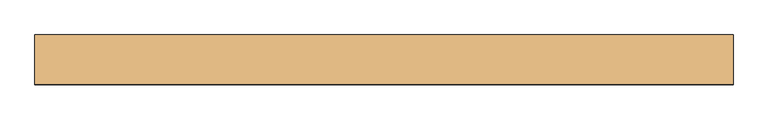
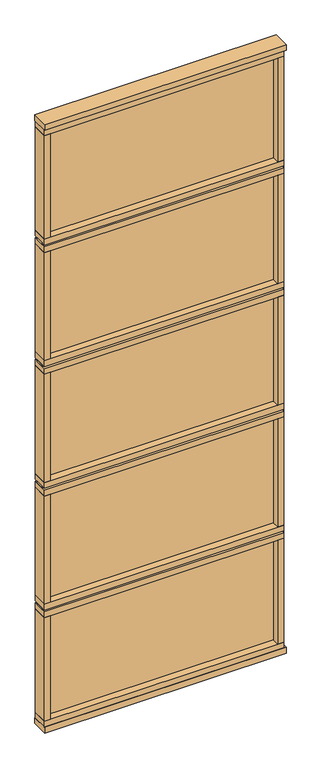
"""IFC4 building model written with IfcOpenShell, lengths in millimetres: door geometry, Mobiliário_Mobiliário de Escritório_Painel de Vidro Simples - AU5T (Complementar)_Marelli : AU5T - Temperado."""

from ifc_helpers import new_model, si_unit, frame, origin, origin_with_axes, place, context, project, spatial, polyline, outline, extrude, source, transform, mapped, element, save


def door_3cf1cd3f(model_context):
    return source(origin(), model_context, "Body", "SweptSolid", [
        extrude(outline(polyline([(600.0, 42.5), (600.0, -42.5), (-600.0, -42.5), (-600.0, 42.5), (600.0, 42.5)])), origin_with_axes(), (0.0, 0.0, 1.0), 30.0),
        extrude(outline(polyline([(590.0, 21.5), (590.0, -21.5), (-600.0, -21.5), (-600.0, 21.5), (590.0, 21.5)])), frame((0.0, 0.0, 2555.0), z_axis=(0.0, 0.0, 1.0), x_axis=(1.0, 0.0, 0.0)), (0.0, 0.0, 1.0), 10.0),
        extrude(outline(polyline([(590.0, 39.5), (590.0, -39.5), (-600.0, -39.5), (-600.0, 39.5), (590.0, 39.5)])), frame((0.0, 0.0, 2565.0), z_axis=(0.0, 0.0, 1.0), x_axis=(1.0, 0.0, 0.0)), (0.0, 0.0, 1.0), 30.0),
        extrude(outline(polyline([(-570.0, 39.5), (-570.0, -39.5), (-600.0, -39.5), (-600.0, 39.5), (-570.0, 39.5)])), frame((0.0, 0.0, 2595.0), z_axis=(0.0, 0.0, 1.0), x_axis=(1.0, 0.0, 0.0)), (0.0, 0.0, 1.0), 545.0),
        extrude(outline(polyline([(560.0, 39.5), (590.0, 39.5), (590.0, -39.5), (560.0, -39.5), (560.0, 39.5)])), frame((0.0, 0.0, 2595.0), z_axis=(0.0, 0.0, 1.0), x_axis=(1.0, 0.0, 0.0)), (0.0, 0.0, 1.0), 545.0),
        extrude(outline(polyline([(560.0, 3.0), (560.0, -3.0), (-570.0, -3.0), (-570.0, 3.0), (560.0, 3.0)])), frame((0.0, 0.0, 2595.0), z_axis=(0.0, 0.0, 1.0), x_axis=(1.0, 0.0, 0.0)), (0.0, 0.0, 1.0), 545.0),
        extrude(outline(polyline([(590.0, 39.5), (590.0, -39.5), (-600.0, -39.5), (-600.0, 39.5), (590.0, 39.5)])), frame((0.0, 0.0, 2525.0), z_axis=(0.0, 0.0, 1.0), x_axis=(1.0, 0.0, 0.0)), (0.0, 0.0, 1.0), 30.0),
        extrude(outline(polyline([(590.0, 39.5), (590.0, -39.5), (-600.0, -39.5), (-600.0, 39.5), (590.0, 39.5)])), frame((0.0, 0.0, 1925.0), z_axis=(0.0, 0.0, 1.0), x_axis=(1.0, 0.0, 0.0)), (0.0, 0.0, 1.0), 30.0),
        extrude(outline(polyline([(590.0, 21.5), (590.0, -21.5), (-600.0, -21.5), (-600.0, 21.5), (590.0, 21.5)])), frame((0.0, 0.0, 1915.0), z_axis=(0.0, 0.0, 1.0), x_axis=(1.0, 0.0, 0.0)), (0.0, 0.0, 1.0), 10.0),
        extrude(outline(polyline([(590.0, 21.5), (590.0, -21.5), (-600.0, -21.5), (-600.0, 21.5), (590.0, 21.5)])), frame((0.0, 0.0, 1275.0), z_axis=(0.0, 0.0, 1.0), x_axis=(1.0, 0.0, 0.0)), (0.0, 0.0, 1.0), 10.0),
        extrude(outline(polyline([(590.0, 21.5), (590.0, -21.5), (-600.0, -21.5), (-600.0, 21.5), (590.0, 21.5)])), frame((0.0, 0.0, 635.0), z_axis=(0.0, 0.0, 1.0), x_axis=(1.0, 0.0, 0.0)), (0.0, 0.0, 1.0), 10.0),
        extrude(outline(polyline([(590.0, 39.5), (590.0, -39.5), (-600.0, -39.5), (-600.0, 39.5), (590.0, 39.5)])), frame((0.0, 0.0, 1285.0), z_axis=(0.0, 0.0, 1.0), x_axis=(1.0, 0.0, 0.0)), (0.0, 0.0, 1.0), 30.0),
        extrude(outline(polyline([(-570.0, 39.5), (-570.0, -39.5), (-600.0, -39.5), (-600.0, 39.5), (-570.0, 39.5)])), frame((0.0, 0.0, 1315.0), z_axis=(0.0, 0.0, 1.0), x_axis=(1.0, 0.0, 0.0)), (0.0, 0.0, 1.0), 570.0),
        extrude(outline(polyline([(560.0, 39.5), (590.0, 39.5), (590.0, -39.5), (560.0, -39.5), (560.0, 39.5)])), frame((0.0, 0.0, 1315.0), z_axis=(0.0, 0.0, 1.0), x_axis=(1.0, 0.0, 0.0)), (0.0, 0.0, 1.0), 570.0),
        extrude(outline(polyline([(590.0, 39.5), (590.0, -39.5), (-600.0, -39.5), (-600.0, 39.5), (590.0, 39.5)])), frame((0.0, 0.0, 1885.0), z_axis=(0.0, 0.0, 1.0), x_axis=(1.0, 0.0, 0.0)), (0.0, 0.0, 1.0), 30.0),
        extrude(outline(polyline([(590.0, 39.5), (590.0, -39.5), (-600.0, -39.5), (-600.0, 39.5), (590.0, 39.5)])), frame((0.0, 0.0, 1245.0), z_axis=(0.0, 0.0, 1.0), x_axis=(1.0, 0.0, 0.0)), (0.0, 0.0, 1.0), 30.0),
        extrude(outline(polyline([(590.0, 39.5), (590.0, -39.5), (-600.0, -39.5), (-600.0, 39.5), (590.0, 39.5)])), frame((0.0, 0.0, 645.0), z_axis=(0.0, 0.0, 1.0), x_axis=(1.0, 0.0, 0.0)), (0.0, 0.0, 1.0), 30.0),
        extrude(outline(polyline([(-570.0, 39.5), (-570.0, -39.5), (-600.0, -39.5), (-600.0, 39.5), (-570.0, 39.5)])), frame((0.0, 0.0, 60.0), z_axis=(0.0, 0.0, 1.0), x_axis=(1.0, 0.0, 0.0)), (0.0, 0.0, 1.0), 545.0),
        extrude(outline(polyline([(560.0, 39.5), (590.0, 39.5), (590.0, -39.5), (560.0, -39.5), (560.0, 39.5)])), frame((0.0, 0.0, 60.0), z_axis=(0.0, 0.0, 1.0), x_axis=(1.0, 0.0, 0.0)), (0.0, 0.0, 1.0), 545.0),
        extrude(outline(polyline([(590.0, 39.5), (590.0, -39.5), (-600.0, -39.5), (-600.0, 39.5), (590.0, 39.5)])), frame((0.0, 0.0, 605.0), z_axis=(0.0, 0.0, 1.0), x_axis=(1.0, 0.0, 0.0)), (0.0, 0.0, 1.0), 30.0),
        extrude(outline(polyline([(590.0, 39.5), (590.0, -39.5), (-600.0, -39.5), (-600.0, 39.5), (590.0, 39.5)])), frame((0.0, 0.0, 30.0), z_axis=(0.0, 0.0, 1.0), x_axis=(1.0, 0.0, 0.0)), (0.0, 0.0, 1.0), 30.0),
        extrude(outline(polyline([(560.0, 3.0), (560.0, -3.0), (-570.0, -3.0), (-570.0, 3.0), (560.0, 3.0)])), frame((0.0, 0.0, 1315.0), z_axis=(0.0, 0.0, 1.0), x_axis=(1.0, 0.0, 0.0)), (0.0, 0.0, 1.0), 570.0),
        extrude(outline(polyline([(560.0, 3.0), (560.0, -3.0), (-570.0, -3.0), (-570.0, 3.0), (560.0, 3.0)])), frame((0.0, 0.0, 60.0), z_axis=(0.0, 0.0, 1.0), x_axis=(1.0, 0.0, 0.0)), (0.0, 0.0, 1.0), 545.0),
        extrude(outline(polyline([(600.0, 42.5), (600.0, -42.5), (-600.0, -42.5), (-600.0, 42.5), (600.0, 42.5)])), frame((0.0, 0.0, 3170.0), z_axis=(0.0, 0.0, 1.0), x_axis=(1.0, 0.0, 0.0)), (0.0, 0.0, 1.0), 30.0),
        extrude(outline(polyline([(590.0, 39.5), (590.0, -39.5), (-600.0, -39.5), (-600.0, 39.5), (590.0, 39.5)])), frame((0.0, 0.0, 3140.0), z_axis=(0.0, 0.0, 1.0), x_axis=(1.0, 0.0, 0.0)), (0.0, 0.0, 1.0), 30.0),
        extrude(outline(polyline([(590.0, 21.5), (600.0, 21.5), (600.0, -21.5), (590.0, -21.5), (590.0, 21.5)])), frame((0.0, 0.0, 30.0), z_axis=(0.0, 0.0, 1.0), x_axis=(1.0, 0.0, 0.0)), (0.0, 0.0, 1.0), 3140.0),
        extrude(outline(polyline([(-570.0, 39.5), (-570.0, -39.5), (-600.0, -39.5), (-600.0, 39.5), (-570.0, 39.5)])), frame((0.0, 0.0, 1955.0), z_axis=(0.0, 0.0, 1.0), x_axis=(1.0, 0.0, 0.0)), (0.0, 0.0, 1.0), 570.0),
        extrude(outline(polyline([(560.0, 39.5), (590.0, 39.5), (590.0, -39.5), (560.0, -39.5), (560.0, 39.5)])), frame((0.0, 0.0, 1955.0), z_axis=(0.0, 0.0, 1.0), x_axis=(1.0, 0.0, 0.0)), (0.0, 0.0, 1.0), 570.0),
        extrude(outline(polyline([(560.0, 3.0), (560.0, -3.0), (-570.0, -3.0), (-570.0, 3.0), (560.0, 3.0)])), frame((0.0, 0.0, 1955.0), z_axis=(0.0, 0.0, 1.0), x_axis=(1.0, 0.0, 0.0)), (0.0, 0.0, 1.0), 570.0),
        extrude(outline(polyline([(-570.0, 39.5), (-570.0, -39.5), (-600.0, -39.5), (-600.0, 39.5), (-570.0, 39.5)])), frame((0.0, 0.0, 675.0), z_axis=(0.0, 0.0, 1.0), x_axis=(1.0, 0.0, 0.0)), (0.0, 0.0, 1.0), 570.0),
        extrude(outline(polyline([(560.0, 39.5), (590.0, 39.5), (590.0, -39.5), (560.0, -39.5), (560.0, 39.5)])), frame((0.0, 0.0, 675.0), z_axis=(0.0, 0.0, 1.0), x_axis=(1.0, 0.0, 0.0)), (0.0, 0.0, 1.0), 570.0),
        extrude(outline(polyline([(560.0, 3.0), (560.0, -3.0), (-570.0, -3.0), (-570.0, 3.0), (560.0, 3.0)])), frame((0.0, 0.0, 675.0), z_axis=(0.0, 0.0, 1.0), x_axis=(1.0, 0.0, 0.0)), (0.0, 0.0, 1.0), 570.0),
    ])


if __name__ == "__main__":
    model = new_model("IFC4")
    model_context = context("Model", 3, world=origin())
    ifc_project = project(units=[si_unit("LENGTHUNIT", "METRE", prefix="MILLI")], contexts=[model_context])
    site = spatial("IfcSite", under=ifc_project)
    building = spatial("IfcBuilding", under=site)
    placement = place(None, origin())
    door_shape = door_3cf1cd3f(model_context)
    element("IfcDoor", 1, ObjectType="Mobiliário_Mobiliário de Escritório_Painel de Vidro Simples - AU5T (Complementar)_Marelli : AU5T - Temperado", at=placement, inside=building, context=model_context, shape_type="MappedRepresentation", body=[
        mapped(door_shape, transform((0.0, 0.0, 0.0), x_axis=(1.0, 0.0, 0.0), y_axis=(0.0, 1.0, 0.0), z_axis=(0.0, 0.0, 1.0))),
    ])
    save(model, "model.ifc")
